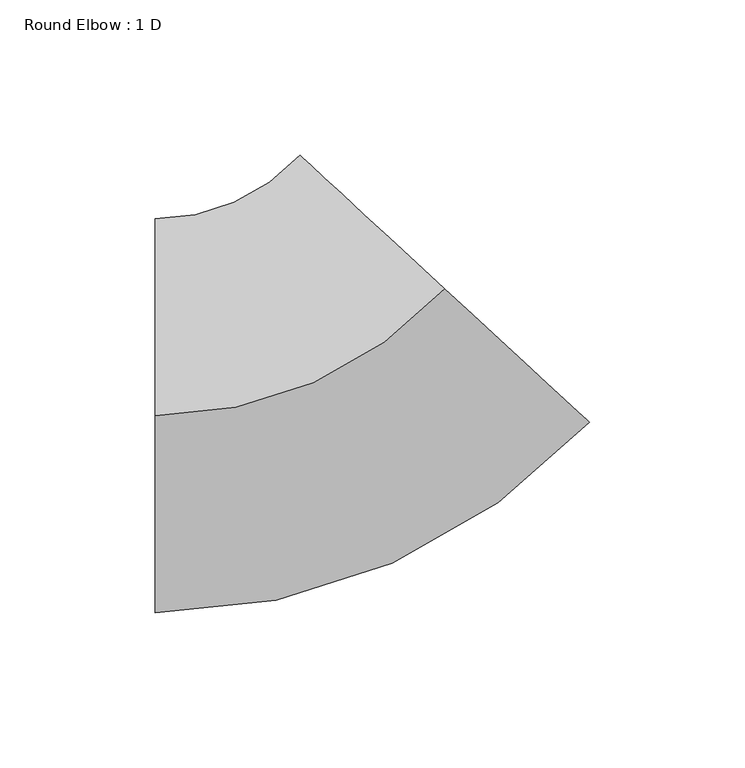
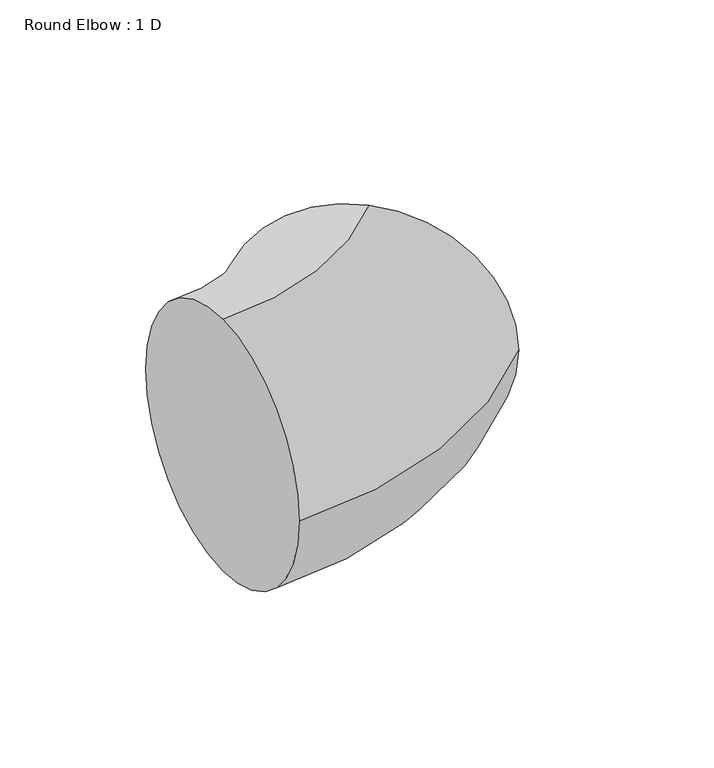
"""IFC4 building model written with IfcOpenShell, lengths in millimetres: duct fitting geometry, Round Elbow : 1 D."""

from ifc_helpers import new_model, si_unit, point, frame, origin, place, context, project, spatial, circle_curve, ellipse_curve, trimmed, source, transform, mapped, element, save
from ifc_brep_helpers import plane_surface, revolved_surface, advanced_brep


def round_elbow_1_d_adaedb42(model_context):
    return source(origin(), model_context, "Body", "AdvancedBrep", [
        advanced_brep(
        [(-55.673301, 0.0, 63.5), (-55.673301, 63.5, 0.0), (-55.673301, 0.0, -63.5), (-55.673301, -63.5, 0.0), (37.724926, 40.9432094, 63.5), (84.4240395, -2.0851859, 0.0), (37.724926, 40.9432094, -63.5), (-8.9741875, 83.9716047, 0.0)],
        [
            (0, 1, circle_curve(frame((-55.673301, 0.0, 0.0), z_axis=(-1.0, 0.0, 0.0), x_axis=(0.0, 1.0, 0.0)), 63.5)),
            (1, 2, circle_curve(frame((-55.673301, 0.0, 0.0), z_axis=(-1.0, 0.0, 0.0), x_axis=(0.0, 1.0, 0.0)), 63.5)),
            (2, 3, circle_curve(frame((-55.673301, 0.0, 0.0), z_axis=(-1.0, 0.0, 0.0), x_axis=(0.0, 1.0, 0.0)), 63.5)),
            (3, 0, circle_curve(frame((-55.673301, 0.0, 0.0), z_axis=(-1.0, 0.0, 0.0), x_axis=(0.0, 1.0, 0.0)), 63.5)),
            (4, 5, circle_curve(frame((37.724926, 40.9432094, 0.0), z_axis=(0.6776125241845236, 0.7354191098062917, 0.0), x_axis=(-0.7354191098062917, 0.6776125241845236, 0.0)), 63.5)),
            (5, 6, circle_curve(frame((37.724926, 40.9432094, 0.0), z_axis=(0.6776125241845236, 0.7354191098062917, 0.0), x_axis=(-0.7354191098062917, 0.6776125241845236, 0.0)), 63.5)),
            (6, 7, circle_curve(frame((37.724926, 40.9432094, 0.0), z_axis=(0.6776125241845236, 0.7354191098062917, 0.0), x_axis=(-0.7354191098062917, 0.6776125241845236, 0.0)), 63.5)),
            (7, 4, circle_curve(frame((37.724926, 40.9432094, 0.0), z_axis=(0.6776125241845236, 0.7354191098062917, 0.0), x_axis=(-0.7354191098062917, 0.6776125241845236, 0.0)), 63.5)),
            (7, 1, circle_curve(frame((-55.673301, 127.0, 0.0), z_axis=(0.0, 0.0, -1.0), x_axis=(0.0, -1.0, 0.0)), 63.5)),
            (0, 4, circle_curve(frame((-55.673301, 127.0, 63.5), z_axis=(0.0, 0.0, 1.0), x_axis=(0.0, -1.0, 0.0)), 127.0)),
            (6, 2, circle_curve(frame((-55.673301, 127.0, -63.5), z_axis=(0.0, 0.0, -1.0), x_axis=(0.0, -1.0, 0.0)), 127.0)),
            (5, 3, circle_curve(frame((-55.673301, 127.0, 0.0), z_axis=(0.0, 0.0, -1.0), x_axis=(0.0, -1.0, 0.0)), 190.5)),
        ],
        [
            plane_surface(frame((-55.673301, 0.0, 0.0), z_axis=(-1.0, 0.0, 0.0), x_axis=(0.0, 0.0, 1.0))),
            plane_surface(frame((37.724926, 40.9432094, 0.0), z_axis=(0.6776125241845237, 0.7354191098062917, 0.0), x_axis=(0.0, 0.0, 1.0))),
            revolved_surface(trimmed(ellipse_curve(frame((-55.673301, 0.0, 0.0), z_axis=(-1.0, 0.0, 0.0), x_axis=(0.0, 1.0, 0.0)), 63.5, 63.5), [point((-55.673301, 0.0, 63.5))], [point((-55.673301, 63.5, 0.0))], True, "CARTESIAN"), (-55.673301, 127.0, 0.0), (0.0, 0.0, 1.0)),
            revolved_surface(trimmed(ellipse_curve(frame((-55.673301, 0.0, 0.0), z_axis=(-1.0, 0.0, 0.0), x_axis=(0.0, 1.0, 0.0)), 63.5, 63.5), [point((-55.673301, 63.5, 0.0))], [point((-55.673301, 0.0, -63.5))], True, "CARTESIAN"), (-55.673301, 127.0, 0.0), (0.0, 0.0, 1.0)),
            revolved_surface(trimmed(ellipse_curve(frame((-55.673301, 0.0, 0.0), z_axis=(-1.0, 0.0, 0.0), x_axis=(0.0, 1.0, 0.0)), 63.5, 63.5), [point((-55.673301, 0.0, -63.5))], [point((-55.673301, -63.5, 0.0))], True, "CARTESIAN"), (-55.673301, 127.0, 0.0), (0.0, 0.0, 1.0)),
            revolved_surface(trimmed(ellipse_curve(frame((-55.673301, 0.0, 0.0), z_axis=(-1.0, 0.0, 0.0), x_axis=(0.0, 1.0, 0.0)), 63.5, 63.5), [point((-55.673301, -63.5, 0.0))], [point((-55.673301, 0.0, 63.5))], True, "CARTESIAN"), (-55.673301, 127.0, 0.0), (0.0, 0.0, 1.0)),
        ],
        [
            (0, [[1, 2, 3, 4]]),
            (1, [[5, 6, 7, 8]]),
            (2, [[9, -1, 10, -8]]),
            (3, [[11, -2, -9, -7]]),
            (4, [[12, -3, -11, -6]]),
            (5, [[-10, -4, -12, -5]]),
        ],
    ),
    ])


if __name__ == "__main__":
    model = new_model("IFC4")
    model_context = context("Model", 3, world=origin())
    ifc_project = project(units=[si_unit("LENGTHUNIT", "METRE", prefix="MILLI")], contexts=[model_context])
    site = spatial("IfcSite", under=ifc_project)
    building = spatial("IfcBuilding", under=site)
    placement = place(None, origin())
    round_elbow_1_d_shape = round_elbow_1_d_adaedb42(model_context)
    element("IfcDuctFitting", 1, ObjectType="Round Elbow : 1 D", at=placement, inside=building, context=model_context, shape_type="MappedRepresentation", body=[
        mapped(round_elbow_1_d_shape, transform((0.0, 0.0, 0.0), x_axis=(1.0, 0.0, 0.0), y_axis=(0.0, 1.0, 0.0), z_axis=(0.0, 0.0, 1.0))),
    ])
    save(model, "model.ifc")
